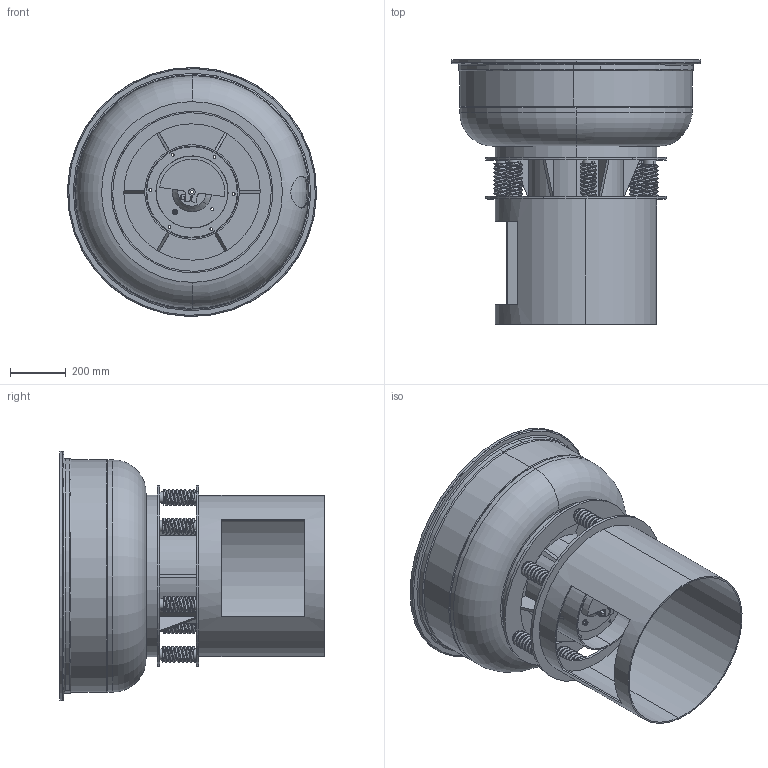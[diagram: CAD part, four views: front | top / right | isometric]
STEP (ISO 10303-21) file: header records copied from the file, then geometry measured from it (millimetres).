
FILE_DESCRIPTION (( 'STEP AP203' ), '1' );
FILE_NAME ('tumbler.STEP', '2013-01-16T14:13:29', ( '' ), ( '' ), 'SwSTEP 2.0', 'SolidWorks 2013', '' );
FILE_SCHEMA (( 'CONFIG_CONTROL_DESIGN' ));
Length unit declared in the file: millimetre
Products named in the file (1): tumbler
Bounding box: 895 x 950 x 895 mm (x, y, z)
Surface area: 6935817.2 mm2 (no closed solid volume)
Topology: 0 solids, 39 shells, 333 faces, 924 edges, 643 vertices
Faces by surface type: cylinder 217, plane 79, cone 13, torus 12, bspline 12
Entity records: 33188 total; most frequent: CARTESIAN_POINT 25105, DIRECTION 1662, ORIENTED_EDGE 1593, EDGE_CURVE 924, AXIS2_PLACEMENT_3D 670, VERTEX_POINT 643, EDGE_LOOP 394, CIRCLE 348
